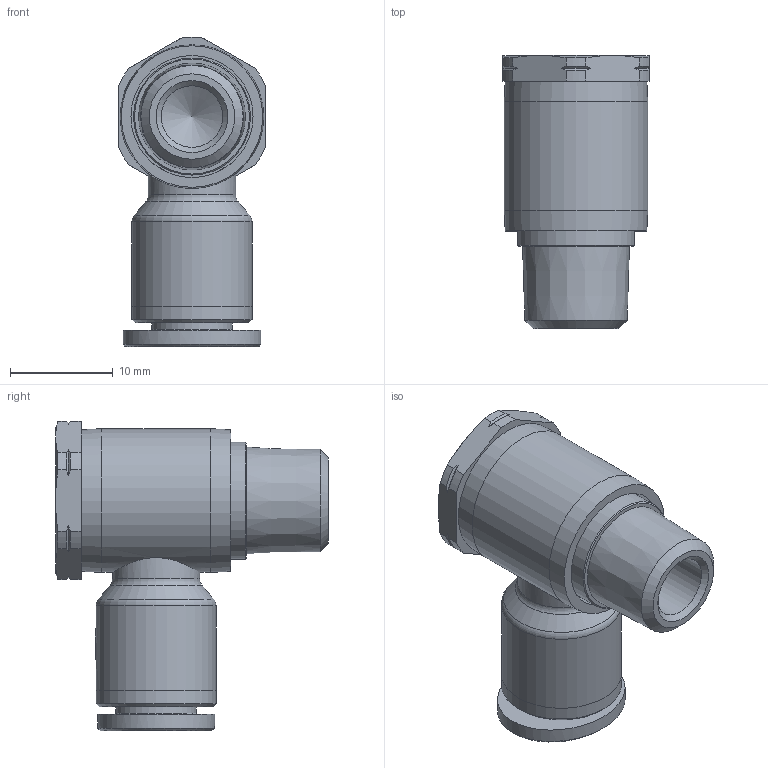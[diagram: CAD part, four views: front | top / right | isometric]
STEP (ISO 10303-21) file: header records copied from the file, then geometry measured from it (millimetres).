
FILE_DESCRIPTION((''),'2;1');
FILE_NAME('C:\Users\user0117\Desktop\김진일\홈페이지\1_4\Internet\GPH 1_4-N01U.stp','2019-09-02T10:03:37',('user0117'),(''),'Autodesk Inventor 2013','Autodesk Inventor 2013','');
FILE_SCHEMA(('AUTOMOTIVE_DESIGN { 1 0 10303 214 1 1 1 1 }'));
Length unit declared in the file: millimetre
Products named in the file (6): GPH 1_4-N01U; GPH BODY N01(BRASS); GPGL BODY 1-4 N01(PLASTIC); G-COLLAR G1-4L; COLLAR G1-4L; SLEEVE G1-4
Assembly tree (5 placements, depth 3):
  GPH 1_4-N01U
    GPH BODY N01(BRASS)
    GPGL BODY 1-4 N01(PLASTIC)
    G-COLLAR G1-4L
      COLLAR G1-4L
      SLEEVE G1-4
Bounding box: 14.29 x 26.6 x 30.19 mm (x, y, z)
Volume: 3439.7 mm3; surface area: 4248.3 mm2
Topology: 4 solids, 4 shells, 209 faces, 532 edges, 349 vertices
Faces by surface type: plane 118, cylinder 32, cone 31, bspline 26, torus 2
Full cylindrical faces by diameter (mm): 5 x1, 6 x1, 6.55 x3, 7.85 x1, 8.5 x1, 9 x1, 11.4 x2, 11.7 x2, 11.9 x1, 14 x1
Entity records: 6881 total; most frequent: CARTESIAN_POINT 1909, ORIENTED_EDGE 986, DIRECTION 963, EDGE_CURVE 493, VERTEX_POINT 341, AXIS2_PLACEMENT_3D 331, VECTOR 301, LINE 301
